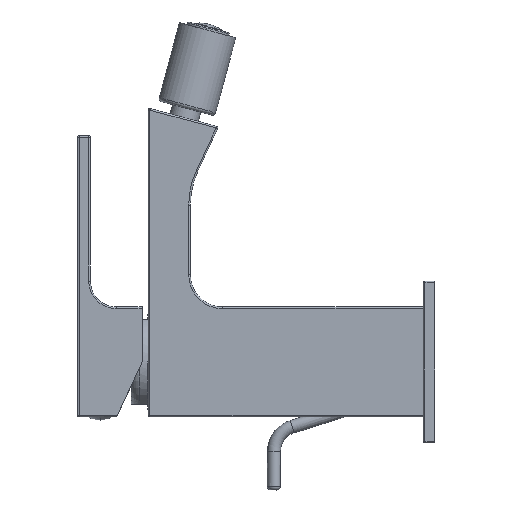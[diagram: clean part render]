
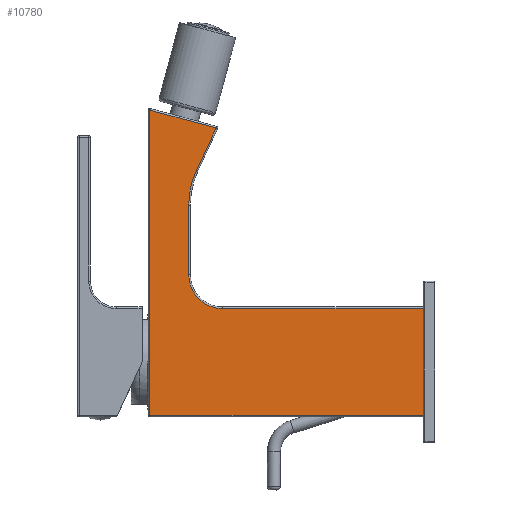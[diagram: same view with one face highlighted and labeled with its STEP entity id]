
A CAD part, left-side view. The second image highlights one B-rep face of the part: STEP entity #10780.
In plain terms, the highlighted planar face has unit normal (-1, 0, 0).
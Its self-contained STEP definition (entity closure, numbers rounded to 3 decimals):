
#306=DIRECTION('',(0.,0.,1.));
#307=VECTOR('',#306,33.);
#308=CARTESIAN_POINT('',(-17.,0.,-17.5));
#309=LINE('',#308,#307);
#310=DIRECTION('',(0.,1.,0.));
#311=VECTOR('',#310,84.5);
#312=CARTESIAN_POINT('',(-17.,0.,-17.5));
#313=LINE('',#312,#311);
#314=DIRECTION('',(0.,0.,1.));
#315=VECTOR('',#314,94.332);
#316=CARTESIAN_POINT('',(-17.,84.5,-17.5));
#317=LINE('',#316,#315);
#318=DIRECTION('',(0.,-0.966,-0.259));
#319=VECTOR('',#318,21.211);
#320=CARTESIAN_POINT('',(-17.,84.5,76.832));
#321=LINE('',#320,#319);
#322=DIRECTION('',(0.,0.423,-0.906));
#323=VECTOR('',#322,14.432);
#324=CARTESIAN_POINT('',(-17.,64.012,71.342));
#325=LINE('',#324,#323);
#326=CARTESIAN_POINT('',(-17.,47.,47.485));
#327=DIRECTION('',(-1.,0.,0.));
#328=DIRECTION('',(0.,0.906,0.423));
#329=AXIS2_PLACEMENT_3D('',#326,#327,#328);
#331=DIRECTION('',(0.,0.,-1.));
#332=VECTOR('',#331,21.485);
#333=CARTESIAN_POINT('',(-17.,72.5,47.485));
#334=LINE('',#333,#332);
#335=CARTESIAN_POINT('',(-17.,62.,26.));
#336=DIRECTION('',(-1.,0.,0.));
#337=DIRECTION('',(0.,1.,0.));
#338=AXIS2_PLACEMENT_3D('',#335,#336,#337);
#340=DIRECTION('',(0.,-1.,0.));
#341=VECTOR('',#340,62.);
#342=CARTESIAN_POINT('',(-17.,62.,15.5));
#343=LINE('',#342,#341);
#9196=CARTESIAN_POINT('',(-17.,84.5,76.832));
#9197=VERTEX_POINT('',#9196);
#9200=CARTESIAN_POINT('',(-17.,84.5,-17.5));
#9201=VERTEX_POINT('',#9200);
#9208=CARTESIAN_POINT('',(-17.,72.5,26.));
#9209=CARTESIAN_POINT('',(-17.,62.,15.5));
#9210=VERTEX_POINT('',#9208);
#9211=VERTEX_POINT('',#9209);
#9214=CARTESIAN_POINT('',(-17.,72.5,47.485));
#9215=VERTEX_POINT('',#9214);
#9218=CARTESIAN_POINT('',(-17.,70.111,58.262));
#9219=VERTEX_POINT('',#9218);
#9222=CARTESIAN_POINT('',(-17.,64.012,71.342));
#9223=VERTEX_POINT('',#9222);
#9991=CARTESIAN_POINT('',(-17.,0.,-17.5));
#9992=CARTESIAN_POINT('',(-17.,0.,15.5));
#9993=VERTEX_POINT('',#9991);
#9994=VERTEX_POINT('',#9992);
#10758=CARTESIAN_POINT('',(-17.,0.,-18.));
#10759=DIRECTION('',(-1.,0.,0.));
#10760=DIRECTION('',(0.,0.,1.));
#10761=AXIS2_PLACEMENT_3D('',#10758,#10759,#10760);
#10762=PLANE('',#10761);
#10763=ORIENTED_EDGE('',*,*,#10504,.F.);
#10765=ORIENTED_EDGE('',*,*,#10764,.T.);
#10766=ORIENTED_EDGE('',*,*,#10371,.T.);
#10767=ORIENTED_EDGE('',*,*,#10400,.T.);
#10769=ORIENTED_EDGE('',*,*,#10768,.T.);
#10771=ORIENTED_EDGE('',*,*,#10770,.T.);
#10773=ORIENTED_EDGE('',*,*,#10772,.T.);
#10775=ORIENTED_EDGE('',*,*,#10774,.T.);
#10777=ORIENTED_EDGE('',*,*,#10776,.T.);
#10778=EDGE_LOOP('',(#10763,#10765,#10766,#10767,#10769,#10771,#10773,#10775,
#10777));
#10779=FACE_OUTER_BOUND('',#10778,.F.);
#10780=ADVANCED_FACE('',(#10779),#10762,.T.);
#330=CIRCLE('',#329,25.5);
#339=CIRCLE('',#338,10.5);
#10371=EDGE_CURVE('',#9201,#9197,#317,.T.);
#10400=EDGE_CURVE('',#9197,#9223,#321,.T.);
#10504=EDGE_CURVE('',#9993,#9994,#309,.T.);
#10764=EDGE_CURVE('',#9993,#9201,#313,.T.);
#10768=EDGE_CURVE('',#9223,#9219,#325,.T.);
#10770=EDGE_CURVE('',#9219,#9215,#330,.T.);
#10772=EDGE_CURVE('',#9215,#9210,#334,.T.);
#10774=EDGE_CURVE('',#9210,#9211,#339,.T.);
#10776=EDGE_CURVE('',#9211,#9994,#343,.T.);
